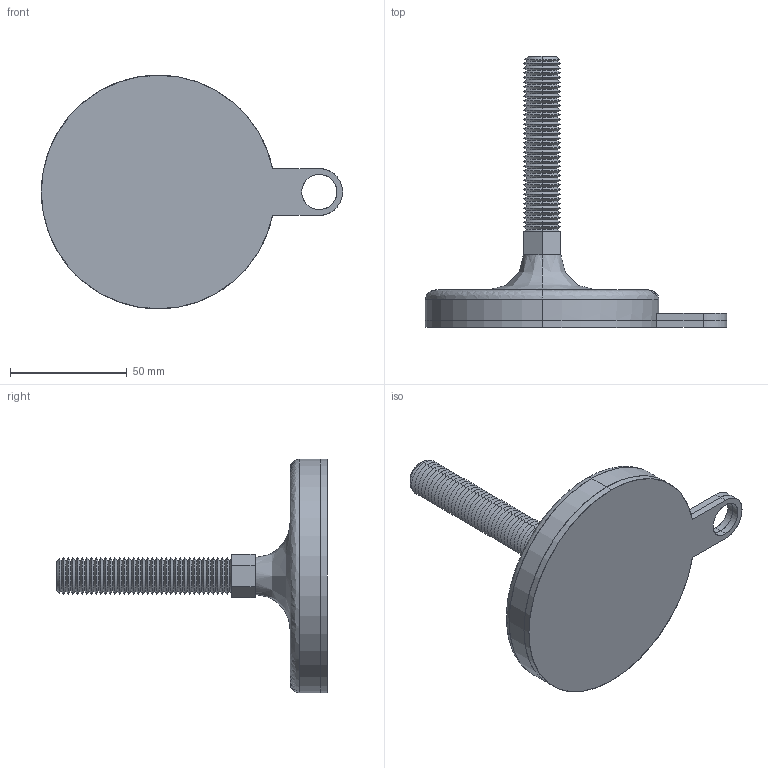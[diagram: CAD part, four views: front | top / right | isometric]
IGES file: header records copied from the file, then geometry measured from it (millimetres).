
Start section: SolidWorks IGES file using analytic representation for surfaces
Global section: file name: C:\Users\liam_\OneDrive\Documents\WORK\Work for WixRoyd\Job Files\J-00026 - Matt Davis CAD - 20191124\04. CAD Drawings\Wixroyd20191124\34704_v2\34704_v2_20191128_IGES\34704.W1604.igs; native system: SolidWorks 2017; preprocessor: SolidWorks 2017; author: liam_; date: 191128.202541; units: millimetre
Bounding box: 129 x 116 x 100 mm (x, y, z)
Surface area: 45672.6 mm2 (no closed solid volume)
Topology: 0 solids, 0 shells, 193 faces, 1404 edges, 1404 vertices
Faces by surface type: revolution 161, bspline 32
